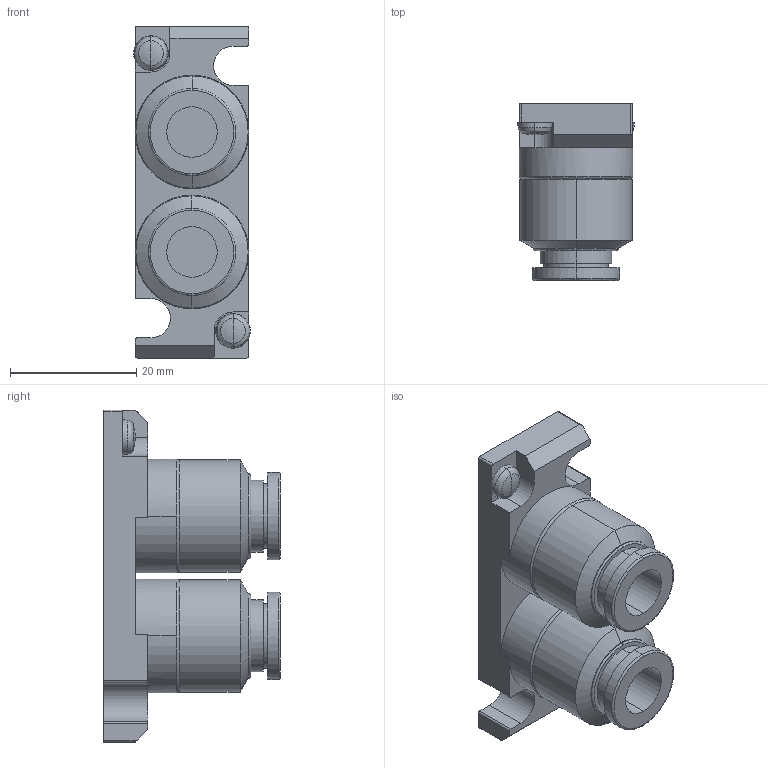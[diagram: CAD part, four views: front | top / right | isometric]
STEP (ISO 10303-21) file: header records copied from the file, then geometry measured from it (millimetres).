
FILE_DESCRIPTION( (''), '2;1');
FILE_NAME ('CVICAD02.3396.F15_Port-PJ5_21462.stp','2021-07-12T19:12:38',(''),(''),'spGate 12.6.6','','');
FILE_SCHEMA (('AUTOMOTIVE_DESIGN'));
Length unit declared in the file: millimetre
Bounding box: 18.48 x 28 x 52.6 mm (x, y, z)
Volume: 13190.1 mm3; surface area: 6094.7 mm2
Topology: 1 solids, 1 shells, 104 faces, 254 edges, 158 vertices
Faces by surface type: cylinder 40, plane 36, bspline 24, sphere 4
Entity records: 5405 total; most frequent: CARTESIAN_POINT 1079, ORIENTED_EDGE 500, DIRECTION 453, COLOUR_RGB 355, PRESENTATION_STYLE_ASSIGNMENT 355, STYLED_ITEM 355, EDGE_CURVE 250, DRAUGHTING_PRE_DEFINED_CURVE_FONT 250
